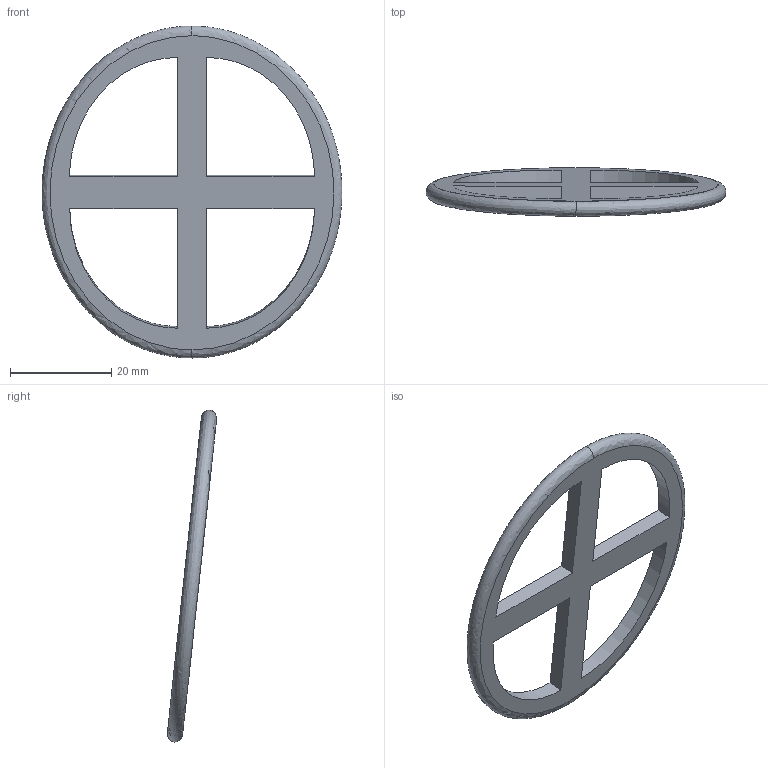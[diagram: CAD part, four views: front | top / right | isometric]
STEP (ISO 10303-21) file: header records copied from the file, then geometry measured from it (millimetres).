
FILE_DESCRIPTION(/* description */ (''),/* implementation_level */ '2;1');
FILE_NAME(/* name */ 'XL-NAR~3',/* time_stamp */ '2020-04-10T21:48:26+03:00',/* author */ (''),/* organization */ (''),/* preprocessor_version */ 'ST-DEVELOPER v16.5',/* originating_system */ '',/* authorisation */ '');
FILE_SCHEMA (('AUTOMOTIVE_DESIGN'));
Length unit declared in the file: millimetre
Products named in the file (1): Document
Bounding box: 59.15 x 9.69 x 65.48 mm (x, y, z)
Volume: 4221.8 mm3; surface area: 4237.6 mm2
Topology: 1 solids, 1 shells, 18 faces, 46 edges, 30 vertices
Faces by surface type: plane 10, bspline 8
Entity records: 1332 total; most frequent: CARTESIAN_POINT 1006, ORIENTED_EDGE 92, EDGE_CURVE 46, VERTEX_POINT 30, EDGE_LOOP 26, B_SPLINE_CURVE_WITH_KNOTS 24, ADVANCED_FACE 18, FACE_OUTER_BOUND 18
